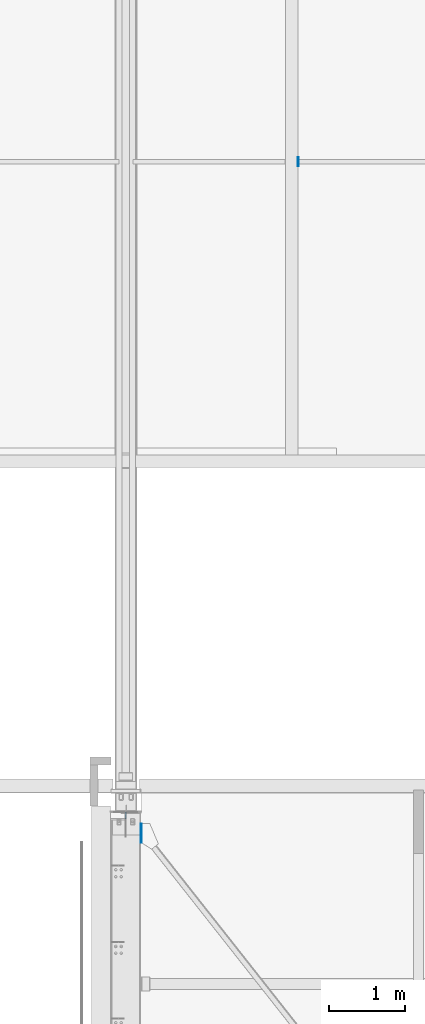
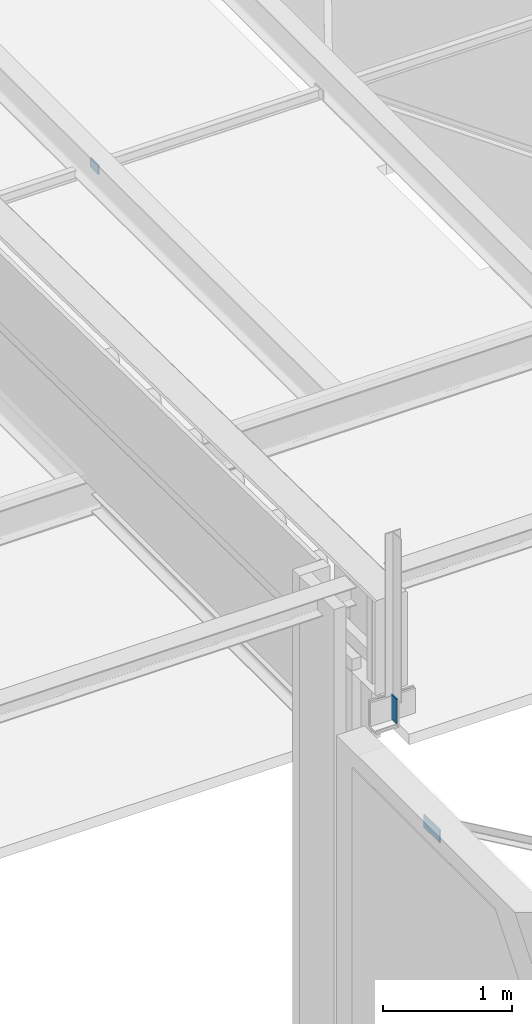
# One storey, part 116 of 186: 4 plates.
"""IFC4X3_ADD2 building model written with IfcOpenShell, lengths in millimetres."""

from ifc_helpers import new_model, si_unit, direction, frame, frame_2d, origin_with_axes, place, context, subcontext, project, spatial, polyline, rectangle, outline, extrude, material, element, save


model = new_model("IFC4X3_ADD2")

# Units and contexts
model_context = context("Model", 3, precision=1e-05, world=origin_with_axes(), true_north=direction((0.0, 1.0)))
body_context = subcontext(model_context, "Body", "Model", "MODEL_VIEW")
ifc_project = project(units=[si_unit("LENGTHUNIT", "METRE", prefix="MILLI"), si_unit("AREAUNIT", "SQUARE_METRE"), si_unit("VOLUMEUNIT", "CUBIC_METRE"), si_unit("PLANEANGLEUNIT", "RADIAN"), si_unit("TIMEUNIT", "SECOND"), si_unit("MASSUNIT", "GRAM")], contexts=[model_context])

# Site, building, storey
site_placement = place(None, origin_with_axes())
site = spatial("IfcSite", under=ifc_project, at=site_placement, Name="Site", CompositionType="ELEMENT")
building_placement = place(site_placement, origin_with_axes())
building = spatial("IfcBuilding", under=site, at=building_placement, Name="IFC Building Story")
storey_placement = place(building_placement, frame((0.0, 0.0, 4370.0), z_axis=(0.0, 0.0, 1.0), x_axis=(1.0, 0.0, 0.0)))
storey = spatial("IfcBuildingStorey", under=building, at=storey_placement, Name="ETAGE 10 (1)", Elevation=4370.0)

# Plates
ifc_material = material(Name="Acier - B 500 B")
plate_1_placement = place(storey_placement, frame((33392.897081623, 3.001104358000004, 3855.000419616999), z_axis=(0.0, 0.0, 1.0), x_axis=(0.0, -1.0, 0.0)))
element("IfcPlate", 1, at=plate_1_placement, inside=storey, material=ifc_material, Name="-", ObjectType="Aucun", context=body_context, shape_type="SweptSolid", body=[
    extrude(outline(polyline([(-42.50163830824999, -117.5), (-42.50088341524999, 117.5), (42.50126086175, 117.5), (42.50126086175, -117.5), (-42.50163830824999, -117.5)])), frame((42.50163830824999, 0.0, 117.5), z_axis=(0.0, 1.0, 0.0), x_axis=(1.0, 0.0, 0.0)), (0.0, 0.0, 1.0), 15.0),
])
plate_2_placement = place(storey_placement, frame((33596.187698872, -148.9944693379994, 2849.352069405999), z_axis=(0.0, 0.0, 1.0), x_axis=(0.0, -1.0, 0.0)))
element("IfcPlate", 2, at=plate_2_placement, inside=storey, material=ifc_material, Name="-", ObjectType="Aucun", context=body_context, shape_type="SweptSolid", body=[
    extrude(rectangle(XDim=249.9999999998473, YDim=12.0, at=frame_2d((0.0, 5.95523630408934e-12), x_axis=(-1.0, 0.0))), frame((126.7857369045, 6.0, 1.874788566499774), z_axis=(-0.01499830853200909, 0.0, 0.9998875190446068), x_axis=(0.9998875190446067, 0.0, 0.01499830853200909)), (0.0, 0.0, 1.0), 119.9999999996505),
])
for number, where, z_axis, x_axis in (
    (3, (35662.189348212, 8581.339653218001, 3075.0), (0.0, 0.0, 1.0), (0.0, -1.0, 0.0)),
    (4, (35656.189348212, 8581.339653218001, 3075.0), (0.0, 0.0, 1.0), (0.0, -1.0, 0.0)),
):
    element("IfcPlate", number, at=place(storey_placement, frame(where, z_axis=z_axis, x_axis=x_axis)), inside=storey, material=ifc_material, Name="-", ObjectType="Aucun", context=body_context, shape_type="SweptSolid", body=[
        extrude(rectangle(XDim=120.0, YDim=6.0, at=frame_2d((0.0, 5.95523630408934e-12), x_axis=(-1.0, 0.0))), frame((60.0, 3.0, 0.0), z_axis=(0.0, 0.0, 1.0), x_axis=(1.0, 0.0, 0.0)), (0.0, 0.0, 1.0), 90.0),
    ])

save(model, "model.ifc")
